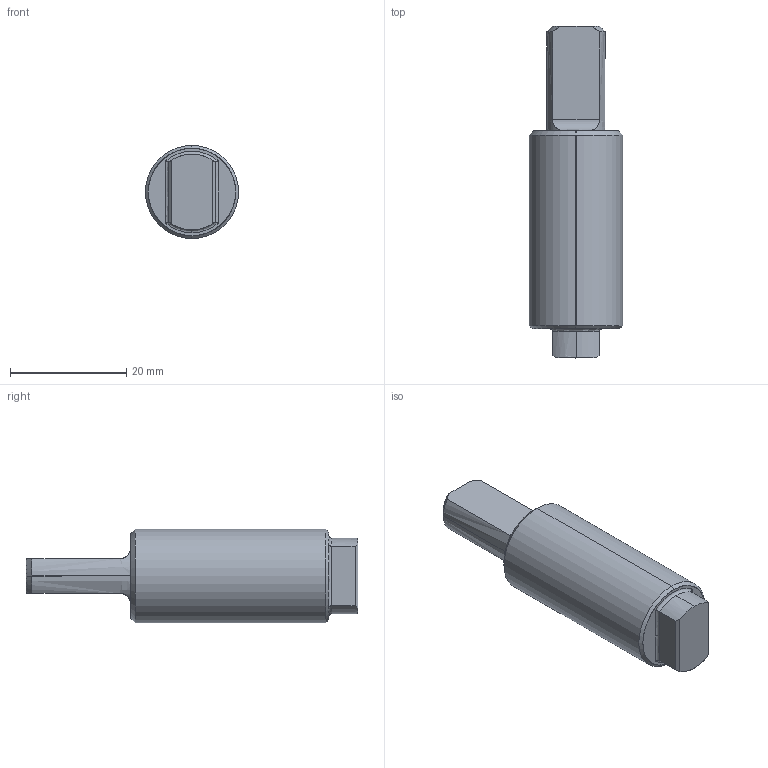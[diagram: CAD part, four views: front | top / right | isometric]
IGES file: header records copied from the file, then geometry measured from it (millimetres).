
Start section: SolidWorks IGES file using analytic representation for surfaces
Global section: file name: C:\3D-DATA\型式\R\【提出用】\IGS\FYN-U1.IGS; native system: SolidWorks 2014; preprocessor: SolidWorks 2014; author: flgijutsu; date: 140516.193901; units: millimetre
Bounding box: 16 x 57 x 16 mm (x, y, z)
Surface area: 2747.4 mm2 (no closed solid volume)
Topology: 0 solids, 0 shells, 33 faces, 434 edges, 434 vertices
Faces by surface type: revolution 19, bspline 14
